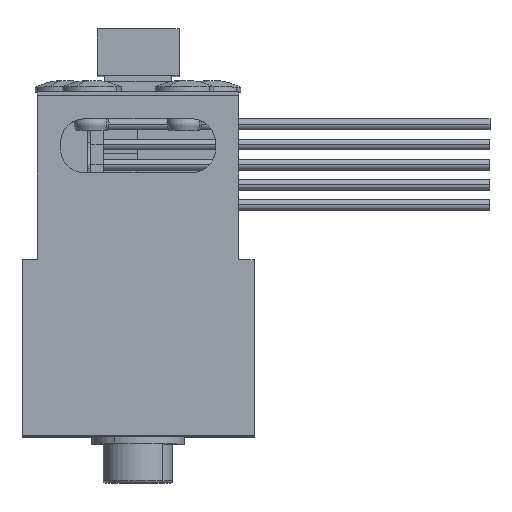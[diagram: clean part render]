
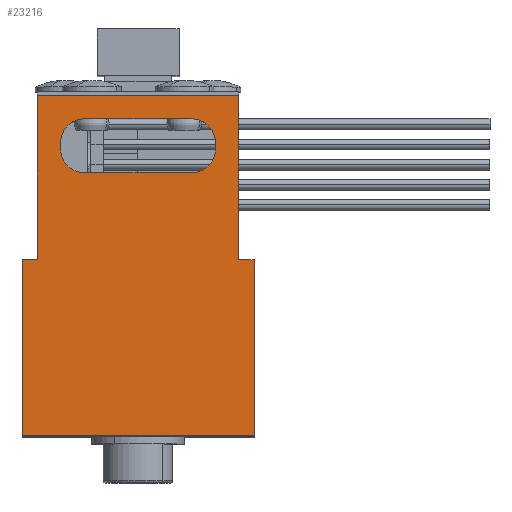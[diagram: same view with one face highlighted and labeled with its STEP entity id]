
A CAD part, top view. The second image highlights one B-rep face of the part: STEP entity #23216.
In plain terms, the highlighted planar face has unit normal (0, 0, 1).
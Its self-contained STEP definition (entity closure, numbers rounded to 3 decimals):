
#61 = CARTESIAN_POINT ( 'NONE',  ( 6.5, 22., 21. ) ) ;
#142 = VERTEX_POINT ( 'NONE', #20470 ) ;
#243 = LINE ( 'NONE', #19798, #4570 ) ;
#273 = ORIENTED_EDGE ( 'NONE', *, *, #2833, .T. ) ;
#395 = CARTESIAN_POINT ( 'NONE',  ( -7.5, 0., 21. ) ) ;
#437 = CIRCLE ( 'NONE', #23752, 1.55 ) ;
#477 = CARTESIAN_POINT ( 'NONE',  ( 7.5, 11.4, 21. ) ) ;
#1044 = LINE ( 'NONE', #3671, #10936 ) ;
#1202 = EDGE_CURVE ( 'NONE', #11450, #12777, #1749, .T. ) ;
#1248 = DIRECTION ( 'NONE',  ( -1., 0., 0. ) ) ;
#1365 = CARTESIAN_POINT ( 'NONE',  ( 3.45, 18.55, 21. ) ) ;
#1427 = VERTEX_POINT ( 'NONE', #61 ) ;
#1749 = LINE ( 'NONE', #9460, #20907 ) ;
#1915 = VECTOR ( 'NONE', #13418, 1000. ) ;
#2126 = CARTESIAN_POINT ( 'NONE',  ( 7.5, 11.4, 21. ) ) ;
#2475 = VERTEX_POINT ( 'NONE', #23919 ) ;
#2581 = VERTEX_POINT ( 'NONE', #3826 ) ;
#2833 = EDGE_CURVE ( 'NONE', #5673, #5772, #243, .T. ) ;
#2892 = CARTESIAN_POINT ( 'NONE',  ( -3.45, 18.95, 21. ) ) ;
#2965 = CARTESIAN_POINT ( 'NONE',  ( -5., 20.5, 21. ) ) ;
#3184 = ORIENTED_EDGE ( 'NONE', *, *, #12646, .T. ) ;
#3201 = CIRCLE ( 'NONE', #5829, 1.55 ) ;
#3213 = DIRECTION ( 'NONE',  ( -1., 0., 0. ) ) ;
#3650 = VECTOR ( 'NONE', #19190, 1000. ) ;
#3671 = CARTESIAN_POINT ( 'NONE',  ( -6.5, 11.4, 21. ) ) ;
#3706 = CIRCLE ( 'NONE', #19741, 1.55 ) ;
#3826 = CARTESIAN_POINT ( 'NONE',  ( 3.45, 20.5, 21. ) ) ;
#3908 = FACE_OUTER_BOUND ( 'NONE', #22679, .T. ) ;
#3937 = VECTOR ( 'NONE', #9200, 1000. ) ;
#4102 = ORIENTED_EDGE ( 'NONE', *, *, #7559, .T. ) ;
#4570 = VECTOR ( 'NONE', #16732, 1000. ) ;
#4742 = DIRECTION ( 'NONE',  ( -1., 0., 0. ) ) ;
#4782 = PLANE ( 'NONE',  #17121 ) ;
#4938 = CARTESIAN_POINT ( 'NONE',  ( 5., 18.95, 21. ) ) ;
#5046 = CARTESIAN_POINT ( 'NONE',  ( -5., 18.95, 21. ) ) ;
#5090 = CARTESIAN_POINT ( 'NONE',  ( 6.5, 11.4, 21. ) ) ;
#5673 = VERTEX_POINT ( 'NONE', #11896 ) ;
#5731 = EDGE_CURVE ( 'NONE', #2581, #19733, #8158, .T. ) ;
#5772 = VERTEX_POINT ( 'NONE', #17662 ) ;
#5829 = AXIS2_PLACEMENT_3D ( 'NONE', #10033, #23023, #11924 ) ;
#5989 = VERTEX_POINT ( 'NONE', #20074 ) ;
#6218 = EDGE_CURVE ( 'NONE', #5772, #19380, #8723, .T. ) ;
#6989 = ORIENTED_EDGE ( 'NONE', *, *, #14018, .T. ) ;
#7525 = CARTESIAN_POINT ( 'NONE',  ( 5., 18.55, 21. ) ) ;
#7559 = EDGE_CURVE ( 'NONE', #1427, #16773, #19728, .T. ) ;
#7678 = CARTESIAN_POINT ( 'NONE',  ( -3.45, 17., 21. ) ) ;
#7693 = VECTOR ( 'NONE', #16012, 1000. ) ;
#7710 = ORIENTED_EDGE ( 'NONE', *, *, #15706, .F. ) ;
#8138 = VECTOR ( 'NONE', #15357, 1000. ) ;
#8158 = CIRCLE ( 'NONE', #12529, 1.55 ) ;
#8205 = EDGE_CURVE ( 'NONE', #9897, #1427, #18811, .T. ) ;
#8324 = VECTOR ( 'NONE', #10731, 1000. ) ;
#8336 = ORIENTED_EDGE ( 'NONE', *, *, #6218, .T. ) ;
#8361 = DIRECTION ( 'NONE',  ( 0., 0., -1. ) ) ;
#8602 = LINE ( 'NONE', #22859, #3650 ) ;
#8621 = CARTESIAN_POINT ( 'NONE',  ( 7.5, 0., 21. ) ) ;
#8723 = LINE ( 'NONE', #477, #8138 ) ;
#9005 = EDGE_CURVE ( 'NONE', #5989, #5673, #21678, .T. ) ;
#9081 = ORIENTED_EDGE ( 'NONE', *, *, #9401, .T. ) ;
#9200 = DIRECTION ( 'NONE',  ( 0., 1., 0. ) ) ;
#9321 = EDGE_CURVE ( 'NONE', #2581, #2475, #21369, .T. ) ;
#9401 = EDGE_CURVE ( 'NONE', #18124, #12777, #437, .T. ) ;
#9460 = CARTESIAN_POINT ( 'NONE',  ( -5., 17., 21. ) ) ;
#9824 = DIRECTION ( 'NONE',  ( 0., 1., 0. ) ) ;
#9897 = VERTEX_POINT ( 'NONE', #14124 ) ;
#9923 = VERTEX_POINT ( 'NONE', #5046 ) ;
#10011 = ORIENTED_EDGE ( 'NONE', *, *, #9321, .F. ) ;
#10033 = CARTESIAN_POINT ( 'NONE',  ( -3.45, 18.55, 21. ) ) ;
#10731 = DIRECTION ( 'NONE',  ( -1., 0., 0. ) ) ;
#10836 = ORIENTED_EDGE ( 'NONE', *, *, #22097, .T. ) ;
#10936 = VECTOR ( 'NONE', #16730, 1000. ) ;
#11235 = LINE ( 'NONE', #19087, #19356 ) ;
#11450 = VERTEX_POINT ( 'NONE', #7678 ) ;
#11484 = ORIENTED_EDGE ( 'NONE', *, *, #9005, .T. ) ;
#11601 = DIRECTION ( 'NONE',  ( 1., 0., 0. ) ) ;
#11896 = CARTESIAN_POINT ( 'NONE',  ( -7.5, 0., 21. ) ) ;
#11924 = DIRECTION ( 'NONE',  ( -1., 0., 0. ) ) ;
#12080 = CARTESIAN_POINT ( 'NONE',  ( 3.45, 17., 21. ) ) ;
#12236 = CARTESIAN_POINT ( 'NONE',  ( -5., 20.5, 21. ) ) ;
#12246 = CARTESIAN_POINT ( 'NONE',  ( -6.5, 11.4, 21. ) ) ;
#12312 = DIRECTION ( 'NONE',  ( -1., 0., 0. ) ) ;
#12408 = DIRECTION ( 'NONE',  ( 0., 0., -1. ) ) ;
#12529 = AXIS2_PLACEMENT_3D ( 'NONE', #19516, #8361, #21367 ) ;
#12646 = EDGE_CURVE ( 'NONE', #11450, #142, #3201, .T. ) ;
#12777 = VERTEX_POINT ( 'NONE', #12080 ) ;
#12987 = CARTESIAN_POINT ( 'NONE',  ( -6.5, 22., 21. ) ) ;
#13418 = DIRECTION ( 'NONE',  ( 0., -1., 0. ) ) ;
#13862 = FACE_BOUND ( 'NONE', #19673, .T. ) ;
#14018 = EDGE_CURVE ( 'NONE', #9923, #2475, #3706, .T. ) ;
#14056 = ORIENTED_EDGE ( 'NONE', *, *, #1202, .F. ) ;
#14100 = DIRECTION ( 'NONE',  ( 0., -1., 0. ) ) ;
#14124 = CARTESIAN_POINT ( 'NONE',  ( 6.5, 11.4, 21. ) ) ;
#14189 = CARTESIAN_POINT ( 'NONE',  ( -6.5, 22., 21. ) ) ;
#14370 = DIRECTION ( 'NONE',  ( 0., 0., -1. ) ) ;
#15357 = DIRECTION ( 'NONE',  ( 0., 1., 0. ) ) ;
#15706 = EDGE_CURVE ( 'NONE', #18124, #19733, #11235, .T. ) ;
#15940 = DIRECTION ( 'NONE',  ( 0., 0., -1. ) ) ;
#16012 = DIRECTION ( 'NONE',  ( -1., 0., 0. ) ) ;
#16730 = DIRECTION ( 'NONE',  ( 0., -1., 0. ) ) ;
#16732 = DIRECTION ( 'NONE',  ( 1., 0., 0. ) ) ;
#16750 = EDGE_CURVE ( 'NONE', #16773, #19160, #1044, .T. ) ;
#16773 = VERTEX_POINT ( 'NONE', #12987 ) ;
#17121 = AXIS2_PLACEMENT_3D ( 'NONE', #8621, #12408, #1248 ) ;
#17662 = CARTESIAN_POINT ( 'NONE',  ( 7.5, 0., 21. ) ) ;
#18124 = VERTEX_POINT ( 'NONE', #7525 ) ;
#18217 = ORIENTED_EDGE ( 'NONE', *, *, #23036, .T. ) ;
#18221 = LINE ( 'NONE', #5090, #8324 ) ;
#18811 = LINE ( 'NONE', #20336, #3937 ) ;
#19087 = CARTESIAN_POINT ( 'NONE',  ( 5., 20.5, 21. ) ) ;
#19160 = VERTEX_POINT ( 'NONE', #12246 ) ;
#19190 = DIRECTION ( 'NONE',  ( -1., 0., 0. ) ) ;
#19356 = VECTOR ( 'NONE', #9824, 1000. ) ;
#19380 = VERTEX_POINT ( 'NONE', #2126 ) ;
#19516 = CARTESIAN_POINT ( 'NONE',  ( 3.45, 18.95, 21. ) ) ;
#19673 = EDGE_LOOP ( 'NONE', ( #14056, #3184, #21968, #6989, #10011, #21816, #7710, #9081 ) ) ;
#19728 = LINE ( 'NONE', #14189, #24056 ) ;
#19733 = VERTEX_POINT ( 'NONE', #4938 ) ;
#19741 = AXIS2_PLACEMENT_3D ( 'NONE', #2892, #15940, #4742 ) ;
#19798 = CARTESIAN_POINT ( 'NONE',  ( 7.5, 0., 21. ) ) ;
#19817 = ORIENTED_EDGE ( 'NONE', *, *, #16750, .T. ) ;
#20074 = CARTESIAN_POINT ( 'NONE',  ( -7.5, 11.4, 21. ) ) ;
#20336 = CARTESIAN_POINT ( 'NONE',  ( 6.5, 22., 21. ) ) ;
#20470 = CARTESIAN_POINT ( 'NONE',  ( -5., 18.55, 21. ) ) ;
#20907 = VECTOR ( 'NONE', #11601, 1000. ) ;
#21367 = DIRECTION ( 'NONE',  ( -1., 0., 0. ) ) ;
#21369 = LINE ( 'NONE', #2965, #7693 ) ;
#21678 = LINE ( 'NONE', #395, #1915 ) ;
#21701 = LINE ( 'NONE', #12236, #23706 ) ;
#21816 = ORIENTED_EDGE ( 'NONE', *, *, #5731, .T. ) ;
#21968 = ORIENTED_EDGE ( 'NONE', *, *, #23191, .F. ) ;
#22097 = EDGE_CURVE ( 'NONE', #19380, #9897, #18221, .T. ) ;
#22442 = ORIENTED_EDGE ( 'NONE', *, *, #8205, .T. ) ;
#22679 = EDGE_LOOP ( 'NONE', ( #8336, #10836, #22442, #4102, #19817, #18217, #11484, #273 ) ) ;
#22859 = CARTESIAN_POINT ( 'NONE',  ( -7.5, 11.4, 21. ) ) ;
#23023 = DIRECTION ( 'NONE',  ( 0., 0., -1. ) ) ;
#23036 = EDGE_CURVE ( 'NONE', #19160, #5989, #8602, .T. ) ;
#23191 = EDGE_CURVE ( 'NONE', #9923, #142, #21701, .T. ) ;
#23216 = ADVANCED_FACE ( 'NONE', ( #13862, #3908 ), #4782, .F. ) ;
#23706 = VECTOR ( 'NONE', #14100, 1000. ) ;
#23752 = AXIS2_PLACEMENT_3D ( 'NONE', #1365, #14370, #3213 ) ;
#23919 = CARTESIAN_POINT ( 'NONE',  ( -3.45, 20.5, 21. ) ) ;
#24056 = VECTOR ( 'NONE', #12312, 1000. ) ;
